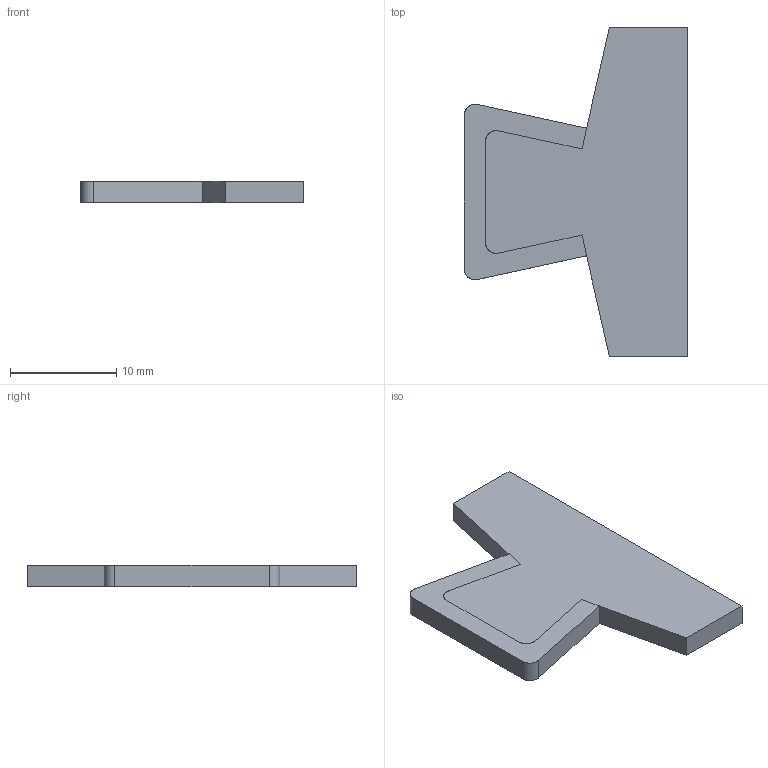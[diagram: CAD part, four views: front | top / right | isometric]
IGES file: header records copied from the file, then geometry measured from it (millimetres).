
Start section: SolidWorks IGES file using analytic representation for surfaces
Global section: file name: C:\Documents and Settings\URETIM3\Desktop\yeni katalog tolgay düzenli\E kataloðu\BS 200 PROFÝL ALPOLEN 1000\MONTAJ\206 KC6 202.MONTAJ.IGS; native system: SolidWorks 2006 by SolidWorks Corporation; preprocessor: SolidWorks 2006 by SolidWorks Corporation; author: URETIM3; date: 060913.093723; units: millimetre
Bounding box: 21 x 31 x 2 mm (x, y, z)
Surface area: 1089.1 mm2 (no closed solid volume)
Topology: 0 solids, 0 shells, 14 faces, 172 edges, 172 vertices
Faces by surface type: bspline 12, revolution 2
